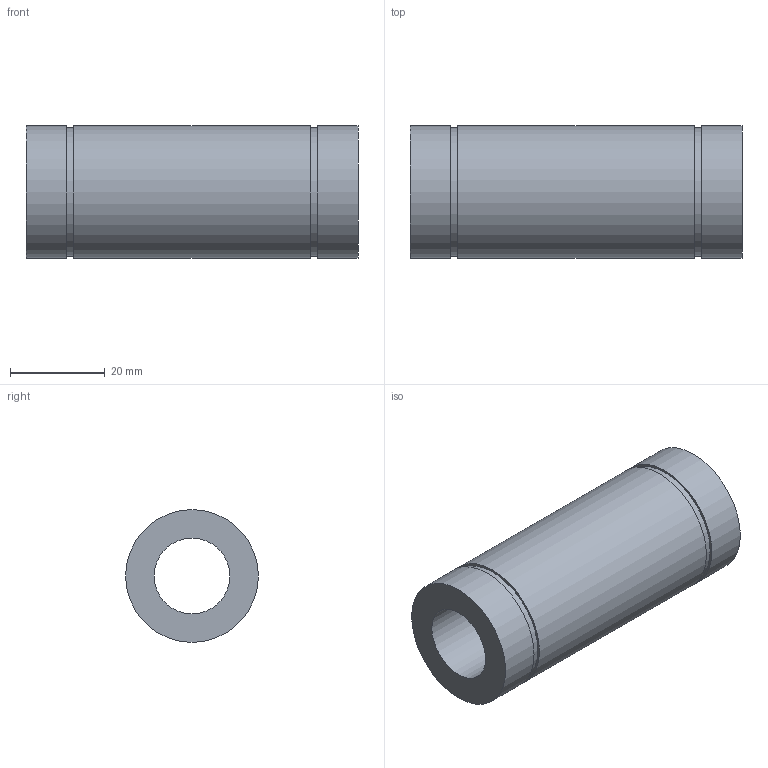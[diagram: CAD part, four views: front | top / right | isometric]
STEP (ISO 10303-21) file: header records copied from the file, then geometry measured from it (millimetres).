
FILE_DESCRIPTION( ( 'STEP AP203' ), '1' );
FILE_NAME( 'p:/temp/worker_102/temp/exporttempdir_3444_161_jwr5x/format_0/LM16LUU.stp', '2020-04-29T05:44:29', ( 'License CC BY-ND 4.0' ), ( 'CADENAS' ), ' ', 'PARTsolutions', ' ' );
FILE_SCHEMA( ( 'CONFIG_CONTROL_DESIGN' ) );
Length unit declared in the file: millimetre
Products named in the file (1): _LM16LUU
Bounding box: 70 x 28 x 28 mm (x, y, z)
Volume: 28890.1 mm3; surface area: 10668.2 mm2
Topology: 1 solids, 1 shells, 12 faces, 18 edges, 12 vertices
Faces by surface type: plane 6, cylinder 6
Full cylindrical faces by diameter (mm): 16 x1, 27 x2, 28 x3
Entity records: 292 total; most frequent: DIRECTION 50, CARTESIAN_POINT 37, AXIS2_PLACEMENT_3D 25, EDGE_LOOP 24, ORIENTED_EDGE 24, FACE_OUTER_BOUND 18, ADVANCED_FACE 12, EDGE_CURVE 12
